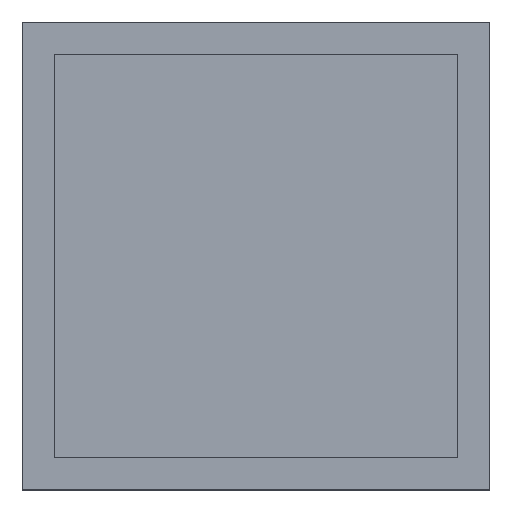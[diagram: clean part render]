
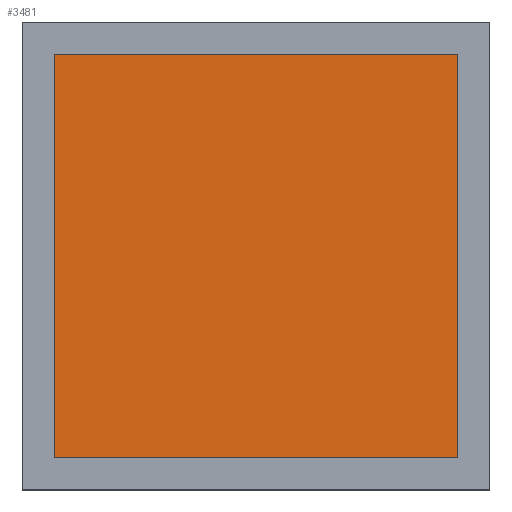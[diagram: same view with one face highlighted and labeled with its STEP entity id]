
A CAD part, top view. The second image highlights one B-rep face of the part: STEP entity #3481.
In plain terms, the highlighted planar face has unit normal (0, 0, 1).
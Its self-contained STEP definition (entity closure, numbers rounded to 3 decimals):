
#109=DIRECTION('',(0.,1.,0.));
#110=VECTOR('',#109,72.4);
#111=CARTESIAN_POINT('',(36.2,-36.2,2.411));
#112=LINE('',#111,#110);
#113=DIRECTION('',(1.,0.,0.));
#114=VECTOR('',#113,72.4);
#115=CARTESIAN_POINT('',(-36.2,-36.2,2.411));
#116=LINE('',#115,#114);
#117=DIRECTION('',(0.,-1.,0.));
#118=VECTOR('',#117,72.4);
#119=CARTESIAN_POINT('',(-36.2,36.2,2.411));
#120=LINE('',#119,#118);
#121=DIRECTION('',(-1.,0.,0.));
#122=VECTOR('',#121,72.4);
#123=CARTESIAN_POINT('',(36.2,36.2,2.411));
#124=LINE('',#123,#122);
#3280=CARTESIAN_POINT('',(36.2,-36.2,2.411));
#3281=CARTESIAN_POINT('',(36.2,36.2,2.411));
#3282=VERTEX_POINT('',#3280);
#3283=VERTEX_POINT('',#3281);
#3284=CARTESIAN_POINT('',(-36.2,36.2,2.411));
#3285=VERTEX_POINT('',#3284);
#3286=CARTESIAN_POINT('',(-36.2,-36.2,2.411));
#3287=VERTEX_POINT('',#3286);
#3470=CARTESIAN_POINT('',(0.,-50.763,2.411));
#3471=DIRECTION('',(0.,0.,1.));
#3472=DIRECTION('',(1.,0.,0.));
#3473=AXIS2_PLACEMENT_3D('',#3470,#3471,#3472);
#3474=PLANE('',#3473);
#3475=ORIENTED_EDGE('',*,*,#3422,.F.);
#3476=ORIENTED_EDGE('',*,*,#3437,.F.);
#3477=ORIENTED_EDGE('',*,*,#3451,.F.);
#3478=ORIENTED_EDGE('',*,*,#3464,.F.);
#3479=EDGE_LOOP('',(#3475,#3476,#3477,#3478));
#3480=FACE_OUTER_BOUND('',#3479,.F.);
#3481=ADVANCED_FACE('',(#3480),#3474,.T.);
#3422=EDGE_CURVE('',#3282,#3283,#112,.T.);
#3437=EDGE_CURVE('',#3287,#3282,#116,.T.);
#3451=EDGE_CURVE('',#3285,#3287,#120,.T.);
#3464=EDGE_CURVE('',#3283,#3285,#124,.T.);
